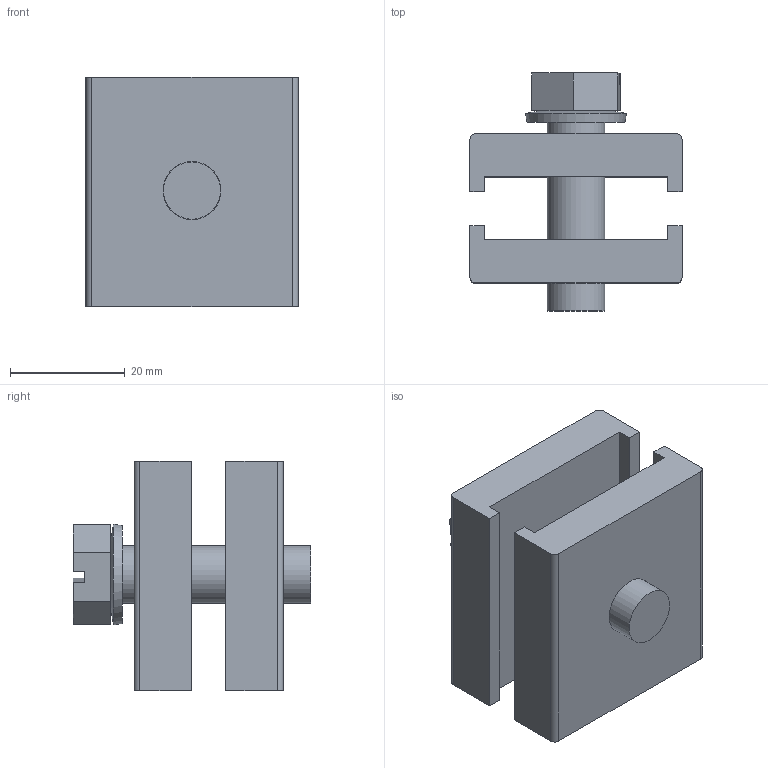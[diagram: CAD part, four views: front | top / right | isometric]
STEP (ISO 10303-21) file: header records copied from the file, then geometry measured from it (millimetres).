
FILE_DESCRIPTION (( 'STEP AP203' ), '1' );
FILE_NAME ('54823.STEP', '2021-08-16T02:13:12', ( '' ), ( '' ), 'SwSTEP 2.0', 'SolidWorks 2017', '' );
FILE_SCHEMA (( 'CONFIG_CONTROL_DESIGN' ));
Length unit declared in the file: millimetre
Products named in the file (2): 54823
Bounding box: 37 x 41.5 x 40 mm (x, y, z)
Volume: 26802.4 mm3; surface area: 11453.8 mm2
Topology: 4 solids, 4 shells, 43 faces, 106 edges, 70 vertices
Faces by surface type: plane 33, cylinder 6, cone 4
Full cylindrical faces by diameter (mm): 10 x1, 10.106 x1
Entity records: 1369 total; most frequent: CARTESIAN_POINT 211, DIRECTION 204, ORIENTED_EDGE 196, EDGE_CURVE 98, LINE 82, VECTOR 82, VERTEX_POINT 68, AXIS2_PLACEMENT_3D 61
